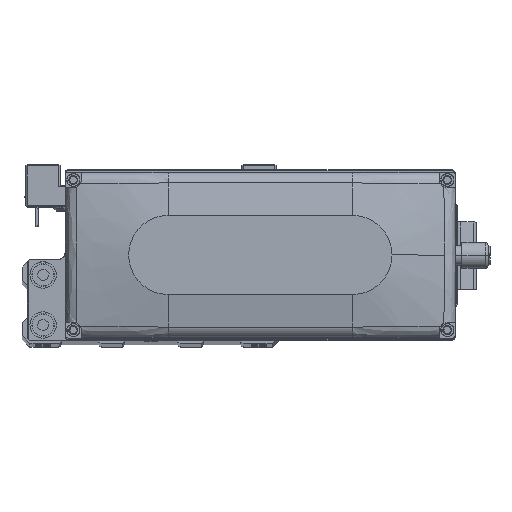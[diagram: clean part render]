
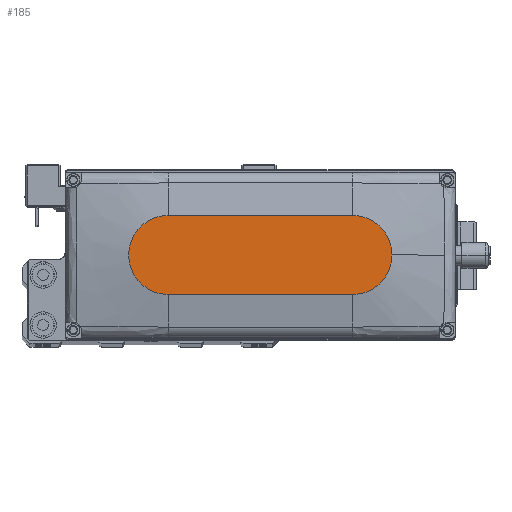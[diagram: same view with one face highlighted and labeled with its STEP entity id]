
A CAD part, top view. The second image highlights one B-rep face of the part: STEP entity #185.
In plain terms, the highlighted planar face has unit normal (0, 0, 1).
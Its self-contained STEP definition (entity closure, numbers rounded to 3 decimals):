
#185 = ADVANCED_FACE ( 'NONE', ( #9263 ), #22494, .T. ) ;
#1704 = ORIENTED_EDGE ( 'NONE', *, *, #1858, .T. ) ;
#1858 = EDGE_CURVE ( 'NONE', #21927, #40174, #22287, .T. ) ;
#3623 = AXIS2_PLACEMENT_3D ( 'NONE', #27300, #40518, #10859 ) ;
#4478 = VECTOR ( 'NONE', #22320, 1000. ) ;
#5438 = AXIS2_PLACEMENT_3D ( 'NONE', #35711, #6049, #19252 ) ;
#6049 = DIRECTION ( 'NONE',  ( 0., 0., 1. ) ) ;
#6426 = ORIENTED_EDGE ( 'NONE', *, *, #30523, .T. ) ;
#6502 = CARTESIAN_POINT ( 'NONE',  ( 50., 0., 35. ) ) ;
#9092 = CARTESIAN_POINT ( 'NONE',  ( -35., -15., 35. ) ) ;
#9195 = CIRCLE ( 'NONE', #33427, 15. ) ;
#9263 = FACE_OUTER_BOUND ( 'NONE', #36808, .T. ) ;
#9560 = DIRECTION ( 'NONE',  ( -1., 0., 0. ) ) ;
#10859 = DIRECTION ( 'NONE',  ( 1., 0., 0. ) ) ;
#12251 = CARTESIAN_POINT ( 'NONE',  ( 35., -15., 35. ) ) ;
#12386 = DIRECTION ( 'NONE',  ( 0., 0., 1. ) ) ;
#14076 = ORIENTED_EDGE ( 'NONE', *, *, #33067, .T. ) ;
#14530 = CARTESIAN_POINT ( 'NONE',  ( -35., -15., 35. ) ) ;
#15822 = CARTESIAN_POINT ( 'NONE',  ( -35., 0., 35. ) ) ;
#17083 = AXIS2_PLACEMENT_3D ( 'NONE', #42048, #12386, #25587 ) ;
#19252 = DIRECTION ( 'NONE',  ( 1., 0., 0. ) ) ;
#19405 = VERTEX_POINT ( 'NONE', #37963 ) ;
#19953 = EDGE_CURVE ( 'NONE', #42143, #29014, #9195, .T. ) ;
#21036 = ORIENTED_EDGE ( 'NONE', *, *, #19953, .T. ) ;
#21927 = VERTEX_POINT ( 'NONE', #12251 ) ;
#22287 = CIRCLE ( 'NONE', #3623, 15. ) ;
#22320 = DIRECTION ( 'NONE',  ( 1., 0., 0. ) ) ;
#22494 = PLANE ( 'NONE',  #5438 ) ;
#25587 = DIRECTION ( 'NONE',  ( 1., 0., 0. ) ) ;
#26023 = LINE ( 'NONE', #39232, #28698 ) ;
#27300 = CARTESIAN_POINT ( 'NONE',  ( 35., 0., 35. ) ) ;
#28698 = VECTOR ( 'NONE', #9560, 1000. ) ;
#29014 = VERTEX_POINT ( 'NONE', #14530 ) ;
#29021 = DIRECTION ( 'NONE',  ( 0., 0., 1. ) ) ;
#30199 = CARTESIAN_POINT ( 'NONE',  ( -35., 15., 35. ) ) ;
#30523 = EDGE_CURVE ( 'NONE', #19405, #42143, #26023, .T. ) ;
#33067 = EDGE_CURVE ( 'NONE', #29014, #21927, #38770, .T. ) ;
#33427 = AXIS2_PLACEMENT_3D ( 'NONE', #15822, #29021, #42215 ) ;
#35711 = CARTESIAN_POINT ( 'NONE',  ( 0., 0., 35. ) ) ;
#35729 = CIRCLE ( 'NONE', #17083, 15. ) ;
#36808 = EDGE_LOOP ( 'NONE', ( #6426, #21036, #14076, #1704, #40282 ) ) ;
#37963 = CARTESIAN_POINT ( 'NONE',  ( 35., 15., 35. ) ) ;
#38770 = LINE ( 'NONE', #9092, #4478 ) ;
#39232 = CARTESIAN_POINT ( 'NONE',  ( -35., 15., 35. ) ) ;
#40174 = VERTEX_POINT ( 'NONE', #6502 ) ;
#40282 = ORIENTED_EDGE ( 'NONE', *, *, #42397, .T. ) ;
#40518 = DIRECTION ( 'NONE',  ( 0., 0., 1. ) ) ;
#42048 = CARTESIAN_POINT ( 'NONE',  ( 35., 0., 35. ) ) ;
#42143 = VERTEX_POINT ( 'NONE', #30199 ) ;
#42215 = DIRECTION ( 'NONE',  ( 1., 0., 0. ) ) ;
#42397 = EDGE_CURVE ( 'NONE', #40174, #19405, #35729, .T. ) ;
